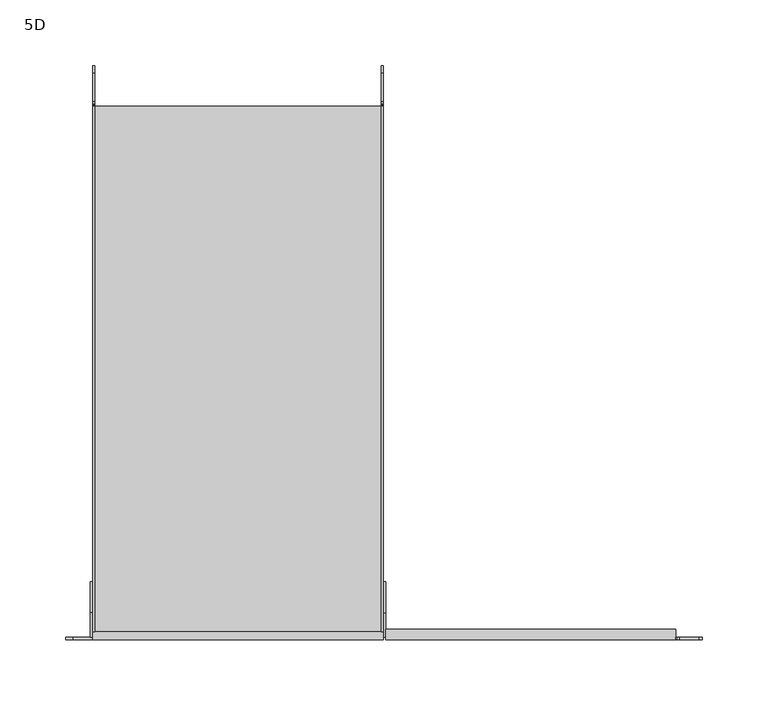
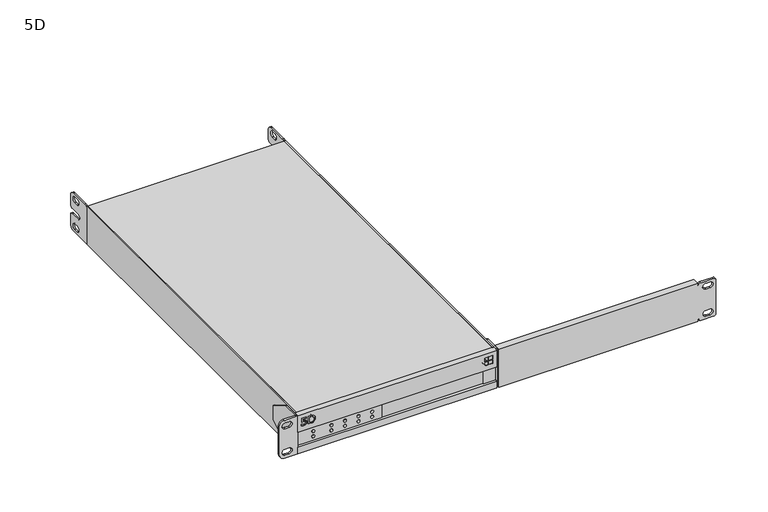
"""IFC4 building model written with IfcOpenShell, lengths in millimetres: proxy geometry, d&b 5D Amplifier : 5D."""

from ifc_helpers import new_model, si_unit, point, frame, frame_2d, origin, origin_with_axes, place, context, project, spatial, polyline, circle_curve, trimmed, segment, composite_curve, outline, extrude, source, transform, mapped, element, save
from ifc_brep_helpers import plane_surface, cylinder_surface, revolved_surface, advanced_brep


def proxy_5d_4609c75b(model_context):
    return source(origin(), model_context, "Body", "SolidModel", [
        extrude(outline(composite_curve([segment(polyline([(185.5829535, 43.9406488), (207.5499232, 43.9406488)]), True, "CONTINUOUS"), segment(trimmed(circle_curve(frame_2d((207.5499232, 38.9406488)), 5.0), [point((207.5499232, 43.9406488))], [point((212.5499232, 38.9406488))], False, "CARTESIAN"), True, "CONTINUOUS"), segment(polyline([(212.5499232, 38.9406488), (212.5499232, 28.0)]), True, "CONTINUOUS"), segment(trimmed(circle_curve(frame_2d((209.5499232, 28.0)), 3.0), [point((212.5499232, 28.0))], [point((209.5499232, 25.0))], False, "CARTESIAN"), True, "CONTINUOUS"), segment(polyline([(209.5499232, 25.0), (197.5499232, 25.0)]), True, "CONTINUOUS"), segment(trimmed(circle_curve(frame_2d((197.5499232, 22.0)), 3.0), [point((197.5499232, 25.0))], [point((197.5499232, 19.0))], True, "CARTESIAN"), True, "CONTINUOUS"), segment(polyline([(197.5499232, 19.0), (209.5499232, 19.0)]), True, "CONTINUOUS"), segment(trimmed(circle_curve(frame_2d((209.5499232, 16.0)), 3.0), [point((209.5499232, 19.0))], [point((212.5499232, 16.0))], False, "CARTESIAN"), True, "CONTINUOUS"), segment(polyline([(212.5499232, 16.0), (212.5499232, 5.0)]), True, "CONTINUOUS"), segment(trimmed(circle_curve(frame_2d((207.5499232, 5.0)), 5.0), [point((212.5499232, 5.0))], [point((207.5499232, 0.0))], False, "CARTESIAN"), True, "CONTINUOUS"), segment(polyline([(207.5499232, 0.0), (182.0499232, 0.0), (182.0499232, 42.7406488), (183.1829535, 42.7406488)]), True, "CONTINUOUS"), segment(trimmed(circle_curve(frame_2d((183.1829535, 43.7406488)), 1.0), [point((183.1829535, 42.7406488))], [point((183.9829535, 43.1406488))], True, "CARTESIAN"), True, "CONTINUOUS"), segment(trimmed(circle_curve(frame_2d((185.5829535, 41.9406488)), 2.0), [point((183.9829535, 43.1406488))], [point((185.5829535, 43.9406488))], False, "CARTESIAN"), True, "CONTINUOUS")], self_intersect=False), holes=[composite_curve([segment(trimmed(circle_curve(frame_2d((204.7999232, 6.25)), 3.25), [point((204.7999232, 3.0))], [point((204.7999232, 9.5))], True, "CARTESIAN"), True, "CONTINUOUS"), segment(polyline([(204.7999232, 9.5), (200.2999232, 9.5)]), True, "CONTINUOUS"), segment(trimmed(circle_curve(frame_2d((200.2999232, 6.25)), 3.25), [point((200.2999232, 9.5))], [point((200.2999232, 3.0))], True, "CARTESIAN"), True, "CONTINUOUS"), segment(polyline([(200.2999232, 3.0), (204.7999232, 3.0)]), True, "CONTINUOUS")], self_intersect=False), composite_curve([segment(trimmed(circle_curve(frame_2d((200.2999232, 37.75)), 3.25), [point((200.2999232, 41.0))], [point((200.2999232, 34.5))], True, "CARTESIAN"), True, "CONTINUOUS"), segment(polyline([(200.2999232, 34.5), (204.7999232, 34.5)]), True, "CONTINUOUS"), segment(trimmed(circle_curve(frame_2d((204.7999232, 37.75)), 3.25), [point((204.7999232, 34.5))], [point((204.7999232, 41.0))], True, "CARTESIAN"), True, "CONTINUOUS"), segment(polyline([(204.7999232, 41.0), (200.2999232, 41.0)]), True, "CONTINUOUS")], self_intersect=False)]), frame((-2.883647, 0.0, 0.0), z_axis=(1.0, 0.0, 0.0), x_axis=(0.0, 1.0, 0.0)), (0.0, 0.0, 1.0), 1.5),
        extrude(outline(composite_curve([segment(polyline([(185.5829535, 43.9406488), (207.5499232, 43.9406488)]), True, "CONTINUOUS"), segment(trimmed(circle_curve(frame_2d((207.5499232, 38.9406488)), 5.0), [point((207.5499232, 43.9406488))], [point((212.5499232, 38.9406488))], False, "CARTESIAN"), True, "CONTINUOUS"), segment(polyline([(212.5499232, 38.9406488), (212.5499232, 28.0)]), True, "CONTINUOUS"), segment(trimmed(circle_curve(frame_2d((209.5499232, 28.0)), 3.0), [point((212.5499232, 28.0))], [point((209.5499232, 25.0))], False, "CARTESIAN"), True, "CONTINUOUS"), segment(polyline([(209.5499232, 25.0), (197.5499232, 25.0)]), True, "CONTINUOUS"), segment(trimmed(circle_curve(frame_2d((197.5499232, 22.0)), 3.0), [point((197.5499232, 25.0))], [point((197.5499232, 19.0))], True, "CARTESIAN"), True, "CONTINUOUS"), segment(polyline([(197.5499232, 19.0), (209.5499232, 19.0)]), True, "CONTINUOUS"), segment(trimmed(circle_curve(frame_2d((209.5499232, 16.0)), 3.0), [point((209.5499232, 19.0))], [point((212.5499232, 16.0))], False, "CARTESIAN"), True, "CONTINUOUS"), segment(polyline([(212.5499232, 16.0), (212.5499232, 5.0)]), True, "CONTINUOUS"), segment(trimmed(circle_curve(frame_2d((207.5499232, 5.0)), 5.0), [point((212.5499232, 5.0))], [point((207.5499232, 0.0))], False, "CARTESIAN"), True, "CONTINUOUS"), segment(polyline([(207.5499232, 0.0), (182.0499232, 0.0), (182.0499232, 42.7406488), (183.1829535, 42.7406488)]), True, "CONTINUOUS"), segment(trimmed(circle_curve(frame_2d((183.1829535, 43.7406488)), 1.0), [point((183.1829535, 42.7406488))], [point((183.9829535, 43.1406488))], True, "CARTESIAN"), True, "CONTINUOUS"), segment(trimmed(circle_curve(frame_2d((185.5829535, 41.9406488)), 2.0), [point((183.9829535, 43.1406488))], [point((185.5829535, 43.9406488))], False, "CARTESIAN"), True, "CONTINUOUS")], self_intersect=False), holes=[composite_curve([segment(trimmed(circle_curve(frame_2d((204.7999232, 6.25)), 3.25), [point((204.7999232, 3.0))], [point((204.7999232, 9.5))], True, "CARTESIAN"), True, "CONTINUOUS"), segment(polyline([(204.7999232, 9.5), (200.2999232, 9.5)]), True, "CONTINUOUS"), segment(trimmed(circle_curve(frame_2d((200.2999232, 6.25)), 3.25), [point((200.2999232, 9.5))], [point((200.2999232, 3.0))], True, "CARTESIAN"), True, "CONTINUOUS"), segment(polyline([(200.2999232, 3.0), (204.7999232, 3.0)]), True, "CONTINUOUS")], self_intersect=False), composite_curve([segment(trimmed(circle_curve(frame_2d((200.2999232, 37.75)), 3.25), [point((200.2999232, 41.0))], [point((200.2999232, 34.5))], True, "CARTESIAN"), True, "CONTINUOUS"), segment(polyline([(200.2999232, 34.5), (204.7999232, 34.5)]), True, "CONTINUOUS"), segment(trimmed(circle_curve(frame_2d((204.7999232, 37.75)), 3.25), [point((204.7999232, 34.5))], [point((204.7999232, 41.0))], True, "CARTESIAN"), True, "CONTINUOUS"), segment(polyline([(204.7999232, 41.0), (200.2999232, 41.0)]), True, "CONTINUOUS")], self_intersect=False)]), frame((-221.330704, 0.0, 0.0), z_axis=(1.0, 0.0, 0.0), x_axis=(0.0, 1.0, 0.0)), (0.0, 0.0, 1.0), 1.5),
        extrude(outline(polyline([(-14.8641212, -216.4500768), (-14.8641212, -218.9005113), (-127.4848246, -218.9005113), (-127.4848246, -216.4500768), (-14.8641212, -216.4500768)])), frame((0.0, 0.0, 7.4401156), z_axis=(0.0, 0.0, 1.0), x_axis=(1.0, 0.0, 0.0)), (0.0, 0.0, 1.0), 17.1349724),
        extrude(outline(polyline([(-219.830704, 182.0499232), (-219.830704, -216.4500768), (-221.330704, -216.4500768), (-221.330704, 182.0499232), (-219.830704, 182.0499232)])), origin_with_axes(), (0.0, 0.0, 1.0), 43.9406488),
        extrude(outline(polyline([(-1.383647, 182.0499232), (-1.383647, -216.4500768), (-2.883647, -216.4500768), (-2.883647, 182.0499232), (-1.383647, 182.0499232)])), origin_with_axes(), (0.0, 0.0, 1.0), 43.9406488),
        advanced_brep(
        [(-1.383647, -222.4500768, 7.4401156), (-1.383647, -222.4500768, 0.0), (-1.383647, -216.4500768, 0.0), (-1.383647, -216.4500768, 43.9406488), (-1.383647, -222.4500768, 43.9406488), (-1.383647, -222.4500768, 24.5750881), (-1.383647, -219.9500768, 24.5750881), (-1.383647, -219.9500768, 7.4401156), (-221.330704, -222.4500768, 43.9406488), (-221.330704, -216.4500768, 43.9406488), (-221.330704, -216.4500768, 24.5750881), (-221.330704, -222.4500768, 24.5750881), (-221.330704, -222.4500768, 7.4401156), (-221.330704, -216.4500768, 7.4401156), (-221.330704, -216.4500768, 0.0), (-221.330704, -222.4500768, 0.0), (-14.8641212, -216.4500768, 7.4401156), (-14.8641212, -216.4500768, 24.5750881), (-209.7824127, -222.4500768, 39.5054393), (-206.5190145, -222.4500768, 39.5054393), (-206.5190145, -222.4500768, 30.5405362), (-209.7824127, -222.4500768, 30.5405362), (-217.0026684, -222.4500768, 39.5054393), (-212.1114808, -222.4500768, 39.5054393), (-212.1114808, -222.4500768, 38.0155348), (-215.6272884, -222.4500768, 38.0155348), (-215.7635554, -222.4500768, 36.4579961), (-214.2558866, -222.4500768, 36.4579961), (-213.19435, -222.4500768, 30.9129936), (-217.7386054, -222.4500768, 31.0936409), (-217.5942324, -222.4500768, 32.7438318), (-213.7483664, -222.4500768, 32.3069326), (-214.2558866, -222.4500768, 34.9579961), (-217.4005181, -222.4500768, 34.9579961), (-15.0897549, -222.4500768, 39.3082376), (-10.8402378, -222.4500768, 39.3082376), (-10.8402378, -222.4500768, 35.0587206), (-15.0897549, -222.4500768, 35.0587206), (-10.233164, -222.4500768, 39.3082376), (-5.983647, -222.4500768, 39.3082376), (-5.983647, -222.4500768, 35.0587206), (-10.233164, -222.4500768, 35.0587206), (-10.233164, -222.4500768, 34.4516467), (-5.983647, -222.4500768, 34.4516467), (-5.983647, -222.4500768, 30.2021297), (-10.233164, -222.4500768, 30.2021297), (-12.9649964, -222.4500768, 34.4516467), (-12.9649964, -222.4500768, 30.2021297), (-208.2824127, -222.4500768, 32.0405362), (-206.5190145, -222.4500768, 32.0405362), (-206.5190145, -222.4500768, 38.0054393), (-208.2824127, -222.4500768, 38.0054393), (-14.8641212, -219.9500768, 24.5750881), (-14.8641212, -219.9500768, 7.4401156), (-206.5190145, -217.4500768, 39.5054393), (-209.7824127, -217.4500768, 39.5054393), (-209.7824127, -217.4500768, 30.5405362), (-206.5190145, -217.4500768, 30.5405362), (-206.5190145, -217.4500768, 32.0405362), (-208.2824127, -217.4500768, 32.0405362), (-208.2824127, -217.4500768, 38.0054393), (-206.5190145, -217.4500768, 38.0054393), (-212.1114808, -217.4500768, 39.5054393), (-217.0026684, -217.4500768, 39.5054393), (-217.4005181, -217.4500768, 34.9579961), (-214.2558866, -217.4500768, 34.9579961), (-213.7483664, -217.4500768, 32.3069326), (-217.5942324, -217.4500768, 32.7438318), (-217.7386054, -217.4500768, 31.0936409), (-213.19435, -217.4500768, 30.9129936), (-214.2558866, -217.4500768, 36.4579961), (-215.7635554, -217.4500768, 36.4579961), (-215.6272884, -217.4500768, 38.0155348), (-212.1114808, -217.4500768, 38.0155348), (-10.8402378, -217.4500768, 39.3082376), (-15.0897549, -217.4500768, 39.3082376), (-15.0897549, -217.4500768, 35.0587206), (-10.8402378, -217.4500768, 35.0587206), (-5.983647, -217.4500768, 39.3082376), (-10.233164, -217.4500768, 39.3082376), (-10.233164, -217.4500768, 35.0587206), (-5.983647, -217.4500768, 35.0587206), (-5.983647, -217.4500768, 34.4516467), (-10.233164, -217.4500768, 34.4516467), (-10.233164, -217.4500768, 30.2021297), (-5.983647, -217.4500768, 30.2021297), (-12.9649964, -217.4500768, 30.2021297), (-12.9649964, -217.4500768, 34.4516467)],
        [
            (0, 1),
            (1, 2),
            (2, 3),
            (3, 4),
            (4, 5),
            (5, 6),
            (6, 7),
            (7, 0),
            (8, 9),
            (9, 10),
            (10, 11),
            (11, 8),
            (12, 13),
            (13, 14),
            (14, 15),
            (15, 12),
            (0, 12),
            (15, 1),
            (14, 2),
            (13, 16),
            (16, 17),
            (17, 10),
            (9, 3),
            (8, 4),
            (11, 5),
            (18, 19),
            (19, 20, circle_curve(frame((-206.5190145, -222.4500768, 35.0229877), z_axis=(0.0, 1.0, 0.0), x_axis=(1.0, 0.0, 0.0)), 4.4824516)),
            (20, 21),
            (21, 18),
            (22, 23),
            (23, 24),
            (24, 25),
            (25, 26),
            (26, 27),
            (27, 28, circle_curve(frame((-214.2558866, -222.4500768, 33.5838844), z_axis=(0.0, 1.0, 0.0), x_axis=(1.0, 0.0, 0.0)), 2.8741117)),
            (28, 29, circle_curve(frame((-215.2631459, -222.4500768, 36.11821), z_axis=(0.0, 1.0, 0.0), x_axis=(1.0, 0.0, 0.0)), 5.6012672)),
            (29, 30),
            (30, 31, circle_curve(frame((-215.2631459, -222.4500768, 36.11821), z_axis=(0.0, -1.0, 0.0), x_axis=(1.0, 0.0, 0.0)), 4.1012672)),
            (31, 32, circle_curve(frame((-214.2558866, -222.4500768, 33.5838844), z_axis=(0.0, -1.0, 0.0), x_axis=(1.0, 0.0, 0.0)), 1.3741117)),
            (32, 33),
            (33, 22),
            (34, 35),
            (35, 36),
            (36, 37),
            (37, 34),
            (38, 39),
            (39, 40),
            (40, 41),
            (41, 38),
            (42, 43),
            (43, 44),
            (44, 45),
            (45, 42),
            (46, 47, circle_curve(frame((-12.9649964, -222.4500768, 32.3268882), z_axis=(0.0, 1.0, 0.0), x_axis=(0.0, 0.0, 1.0)), 2.1247585)),
            (47, 46, circle_curve(frame((-12.9649964, -222.4500768, 32.3268882), z_axis=(0.0, 1.0, 0.0), x_axis=(0.0, 0.0, 1.0)), 2.1247585)),
            (48, 49),
            (49, 50, circle_curve(frame((-206.5190145, -222.4500768, 35.0229877), z_axis=(0.0, -1.0, 0.0), x_axis=(1.0, 0.0, 0.0)), 2.9824516)),
            (50, 51),
            (51, 48),
            (17, 52),
            (52, 6),
            (7, 53),
            (53, 16),
            (53, 52),
            (54, 55),
            (55, 56),
            (56, 57),
            (57, 54, circle_curve(frame((-206.5190145, -217.4500768, 35.0229877), z_axis=(0.0, -1.0, 0.0), x_axis=(1.0, 0.0, 0.0)), 4.4824516)),
            (58, 59),
            (59, 60),
            (60, 61),
            (61, 58, circle_curve(frame((-206.5190145, -217.4500768, 35.0229877), z_axis=(0.0, 1.0, 0.0), x_axis=(1.0, 0.0, 0.0)), 2.9824516)),
            (62, 63),
            (63, 64),
            (64, 65),
            (65, 66, circle_curve(frame((-214.2558866, -217.4500768, 33.5838844), z_axis=(0.0, 1.0, 0.0), x_axis=(1.0, 0.0, 0.0)), 1.3741117)),
            (66, 67, circle_curve(frame((-215.2631459, -217.4500768, 36.11821), z_axis=(0.0, 1.0, 0.0), x_axis=(1.0, 0.0, 0.0)), 4.1012672)),
            (67, 68),
            (68, 69, circle_curve(frame((-215.2631459, -217.4500768, 36.11821), z_axis=(0.0, -1.0, 0.0), x_axis=(1.0, 0.0, 0.0)), 5.6012672)),
            (69, 70, circle_curve(frame((-214.2558866, -217.4500768, 33.5838844), z_axis=(0.0, -1.0, 0.0), x_axis=(1.0, 0.0, 0.0)), 2.8741117)),
            (70, 71),
            (71, 72),
            (72, 73),
            (73, 62),
            (74, 75),
            (75, 76),
            (76, 77),
            (77, 74),
            (78, 79),
            (79, 80),
            (80, 81),
            (81, 78),
            (82, 83),
            (83, 84),
            (84, 85),
            (85, 82),
            (86, 87, circle_curve(frame((-12.9649964, -217.4500768, 32.3268882), z_axis=(0.0, -1.0, 0.0), x_axis=(0.0, 0.0, 1.0)), 2.1247585)),
            (87, 86, circle_curve(frame((-12.9649964, -217.4500768, 32.3268882), z_axis=(0.0, -1.0, 0.0), x_axis=(0.0, 0.0, 1.0)), 2.1247585)),
            (54, 19),
            (18, 55),
            (21, 56),
            (20, 57),
            (58, 49),
            (48, 59),
            (51, 60),
            (50, 61),
            (62, 23),
            (22, 63),
            (33, 64),
            (32, 65),
            (31, 66),
            (30, 67),
            (29, 68),
            (28, 69),
            (27, 70),
            (26, 71),
            (25, 72),
            (24, 73),
            (74, 35),
            (34, 75),
            (37, 76),
            (36, 77),
            (78, 39),
            (38, 79),
            (41, 80),
            (40, 81),
            (82, 43),
            (42, 83),
            (45, 84),
            (44, 85),
            (86, 47),
            (46, 87),
        ],
        [
            plane_surface(frame((-1.383647, -222.4500768, -304.8), z_axis=(1.0, 0.0, 0.0), x_axis=(0.0, 0.0, -1.0))),
            plane_surface(frame((-221.330704, -222.4500768, -304.8), z_axis=(-1.0, 0.0, 0.0), x_axis=(0.0, 0.0, 1.0))),
            plane_surface(frame((-1.383647, -222.4500768, 7.4401156), z_axis=(0.0, -1.0, 0.0), x_axis=(-1.0, 0.0, 0.0))),
            plane_surface(frame((-1.383647, -222.4500768, 0.0), z_axis=(0.0, 0.0, -1.0), x_axis=(-1.0, 0.0, 0.0))),
            plane_surface(frame((-1.383647, -216.4500768, 24.5750881), z_axis=(0.0, 1.0, 0.0), x_axis=(-1.0, 0.0, 0.0))),
            plane_surface(frame((-1.383647, -216.4500768, 43.9406488), z_axis=(0.0, 0.0, 1.0), x_axis=(-1.0, 0.0, 0.0))),
            plane_surface(frame((-1.383647, -222.4500768, 43.9406488), z_axis=(0.0, -1.0, 0.0), x_axis=(-1.0, 0.0, 0.0))),
            plane_surface(frame((-1.383647, -222.4500768, 24.5750881), z_axis=(0.0, 0.0, -1.0), x_axis=(-1.0, 0.0, 0.0))),
            plane_surface(frame((-1.383647, -216.4500768, 7.4401156), z_axis=(0.0, 0.0, 1.0), x_axis=(-1.0, 0.0, 0.0))),
            plane_surface(frame((-14.8641212, -216.4500768, 87.1230012), z_axis=(-1.0, 0.0, 0.0), x_axis=(0.0, 0.0, -1.0))),
            plane_surface(frame((-1.383647, -219.9500768, 24.5750881), z_axis=(0.0, -1.0, 0.0), x_axis=(-1.0, 0.0, 0.0))),
            plane_surface(frame((169.7687193, -217.4500768, 39.3082376), z_axis=(0.0, -1.0, 0.0), x_axis=(1.0, 0.0, 0.0))),
            plane_surface(frame((-206.5190145, -222.4500768, 39.5054393), z_axis=(0.0, 0.0, -1.0), x_axis=(0.0, 1.0, 0.0))),
            plane_surface(frame((-209.7824127, -222.4500768, 39.5054393), z_axis=(1.0, 0.0, 0.0), x_axis=(0.0, 1.0, 0.0))),
            plane_surface(frame((-209.7824127, -222.4500768, 30.5405362), z_axis=(0.0, 0.0, 1.0), x_axis=(0.0, 1.0, 0.0))),
            revolved_surface(polyline([(-202.0365629, -222.4500768, 35.0229877), (-202.0365629, -217.4500768, 35.0229877)]), (-206.5190145, -222.4500768, 35.0229877), (0.0, -1.0, 0.0)),
            plane_surface(frame((-206.5190145, -222.4500768, 32.0405362), z_axis=(0.0, 0.0, -1.0), x_axis=(0.0, 1.0, 0.0))),
            plane_surface(frame((-208.2824127, -222.4500768, 32.0405362), z_axis=(-1.0, 0.0, 0.0), x_axis=(0.0, 1.0, 0.0))),
            plane_surface(frame((-208.2824127, -222.4500768, 38.0054393), z_axis=(0.0, 0.0, 1.0), x_axis=(0.0, 1.0, 0.0))),
            cylinder_surface(frame((-206.5190145, -222.4500768, 35.0229877), z_axis=(0.0, 1.0, 0.0), x_axis=(1.0, 0.0, 0.0)), 2.9824516),
            plane_surface(frame((-212.1114808, -222.4500768, 39.5054393), z_axis=(0.0, 0.0, -1.0), x_axis=(0.0, 1.0, 0.0))),
            plane_surface(frame((-217.0026684, -222.4500768, 39.5054393), z_axis=(0.9961946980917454, 0.0, -0.08715574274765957), x_axis=(0.0, 1.0, 0.0))),
            plane_surface(frame((-217.4005181, -222.4500768, 34.9579961), z_axis=(0.0, 0.0, 1.0), x_axis=(0.0, 1.0, 0.0))),
            cylinder_surface(frame((-214.2558866, -222.4500768, 33.5838844), z_axis=(0.0, 1.0, 0.0), x_axis=(1.0, 0.0, 0.0)), 1.3741117),
            cylinder_surface(frame((-215.2631459, -222.4500768, 36.11821), z_axis=(0.0, 1.0, 0.0), x_axis=(1.0, 0.0, 0.0)), 4.1012672),
            plane_surface(frame((-217.5942324, -222.4500768, 32.7438318), z_axis=(0.996194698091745, 0.0, -0.08715574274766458), x_axis=(0.0, 1.0, 0.0))),
            revolved_surface(polyline([(-209.66187870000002, -222.4500768, 36.11821), (-209.66187870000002, -217.4500768, 36.11821)]), (-215.2631459, -222.4500768, 36.11821), (0.0, -1.0, 0.0)),
            revolved_surface(polyline([(-211.3817749, -222.4500768, 33.5838844), (-211.3817749, -217.4500768, 33.5838844)]), (-214.2558866, -222.4500768, 33.5838844), (0.0, -1.0, 0.0)),
            plane_surface(frame((-214.2558866, -222.4500768, 36.4579961), z_axis=(0.0, 0.0, -1.0), x_axis=(0.0, 1.0, 0.0))),
            plane_surface(frame((-215.7635554, -222.4500768, 36.4579961), z_axis=(-0.9961946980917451, 0.0, 0.08715574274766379), x_axis=(0.0, 1.0, 0.0))),
            plane_surface(frame((-215.6272884, -222.4500768, 38.0155348), z_axis=(0.0, 0.0, 1.0), x_axis=(0.0, 1.0, 0.0))),
            plane_surface(frame((-212.1114808, -222.4500768, 38.0155348), z_axis=(-1.0, 0.0, 0.0), x_axis=(0.0, 1.0, 0.0))),
            plane_surface(frame((-10.8402378, -222.4500768, 39.3082376), z_axis=(0.0, 0.0, -1.0), x_axis=(0.0, 1.0, 0.0))),
            plane_surface(frame((-15.0897549, -222.4500768, 39.3082376), z_axis=(1.0, 0.0, 0.0), x_axis=(0.0, 1.0, 0.0))),
            plane_surface(frame((-15.0897549, -222.4500768, 35.0587206), z_axis=(0.0, 0.0, 1.0), x_axis=(0.0, 1.0, 0.0))),
            plane_surface(frame((-10.8402378, -222.4500768, 35.0587206), z_axis=(-1.0, 0.0, 0.0), x_axis=(0.0, 1.0, 0.0))),
            plane_surface(frame((-5.983647, -222.4500768, 39.3082376), z_axis=(0.0, 0.0, -1.0), x_axis=(0.0, 1.0, 0.0))),
            plane_surface(frame((-10.233164, -222.4500768, 39.3082376), z_axis=(1.0, 0.0, 0.0), x_axis=(0.0, 1.0, 0.0))),
            plane_surface(frame((-10.233164, -222.4500768, 35.0587206), z_axis=(0.0, 0.0, 1.0), x_axis=(0.0, 1.0, 0.0))),
            plane_surface(frame((-5.983647, -222.4500768, 35.0587206), z_axis=(-1.0, 0.0, 0.0), x_axis=(0.0, 1.0, 0.0))),
            plane_surface(frame((-5.983647, -222.4500768, 34.4516467), z_axis=(0.0, 0.0, -1.0), x_axis=(0.0, 1.0, 0.0))),
            plane_surface(frame((-10.233164, -222.4500768, 34.4516467), z_axis=(1.0, 0.0, 0.0), x_axis=(0.0, 1.0, 0.0))),
            plane_surface(frame((-10.233164, -222.4500768, 30.2021297), z_axis=(0.0, 0.0, 1.0), x_axis=(0.0, 1.0, 0.0))),
            plane_surface(frame((-5.983647, -222.4500768, 30.2021297), z_axis=(-1.0, 0.0, 0.0), x_axis=(0.0, 1.0, 0.0))),
            revolved_surface(polyline([(-12.9649964, -222.4500768, 34.4516467), (-12.9649964, -217.4500768, 34.4516467)]), (-12.9649964, -222.4500768, 32.3268882), (0.0, -1.0, 0.0)),
        ],
        [
            (0, [[1, 2, 3, 4, 5, 6, 7, 8]]),
            (1, [[9, 10, 11, 12]]),
            (1, [[13, 14, 15, 16]]),
            (2, [[-1, 17, -16, 18]]),
            (3, [[-2, -18, -15, 19]]),
            (4, [[-3, -19, -14, 20, 21, 22, -10, 23]]),
            (5, [[-4, -23, -9, 24]]),
            (6, [[-5, -24, -12, 25], [26, 27, 28, 29], [30, 31, 32, 33, 34, 35, 36, 37, 38, 39, 40, 41], [42, 43, 44, 45], [46, 47, 48, 49], [50, 51, 52, 53], [54, 55]]),
            (6, [[56, 57, 58, 59]]),
            (7, [[-11, -22, 60, 61, -6, -25]]),
            (8, [[-13, -17, -8, 62, 63, -20]]),
            (9, [[64, -60, -21, -63]]),
            (10, [[-7, -61, -64, -62]]),
            (11, [[65, 66, 67, 68], [69, 70, 71, 72]]),
            (11, [[73, 74, 75, 76, 77, 78, 79, 80, 81, 82, 83, 84]]),
            (11, [[85, 86, 87, 88]]),
            (11, [[89, 90, 91, 92]]),
            (11, [[93, 94, 95, 96]]),
            (11, [[97, 98]]),
            (12, [[-65, 99, -26, 100]]),
            (13, [[-66, -100, -29, 101]]),
            (14, [[-67, -101, -28, 102]]),
            (15, [[-68, -102, -27, -99]]),
            (16, [[-69, 103, -56, 104]]),
            (17, [[-70, -104, -59, 105]]),
            (18, [[-71, -105, -58, 106]]),
            (19, [[-72, -106, -57, -103]]),
            (20, [[-73, 107, -30, 108]]),
            (21, [[-74, -108, -41, 109]]),
            (22, [[-75, -109, -40, 110]]),
            (23, [[-76, -110, -39, 111]]),
            (24, [[-77, -111, -38, 112]]),
            (25, [[-78, -112, -37, 113]]),
            (26, [[-79, -113, -36, 114]]),
            (27, [[-80, -114, -35, 115]]),
            (28, [[-81, -115, -34, 116]]),
            (29, [[-82, -116, -33, 117]]),
            (30, [[-83, -117, -32, 118]]),
            (31, [[-84, -118, -31, -107]]),
            (32, [[-85, 119, -42, 120]]),
            (33, [[-86, -120, -45, 121]]),
            (34, [[-87, -121, -44, 122]]),
            (35, [[-88, -122, -43, -119]]),
            (36, [[-89, 123, -46, 124]]),
            (37, [[-90, -124, -49, 125]]),
            (38, [[-91, -125, -48, 126]]),
            (39, [[-92, -126, -47, -123]]),
            (40, [[-93, 127, -50, 128]]),
            (41, [[-94, -128, -53, 129]]),
            (42, [[-95, -129, -52, 130]]),
            (43, [[-96, -130, -51, -127]]),
            (44, [[-97, 131, -54, 132]]),
            (44, [[-98, -132, -55, -131]]),
        ],
    ),
        extrude(outline(polyline([(-2.883647, 182.0499232), (-2.883647, -216.4500768), (-219.830704, -216.4500768), (-219.830704, 182.0499232), (-2.883647, 182.0499232)])), origin_with_axes(), (0.0, 0.0, 1.0), 43.9406488),
        advanced_brep(
        [(220.666353, -220.4500768, 42.0), (221.666353, -220.4500768, 42.0), (223.666353, -220.4500768, 44.0), (238.416353, -220.4500768, 44.0), (240.416353, -220.4500768, 42.0), (240.416353, -220.4500768, 2.0), (238.416353, -220.4500768, 0.0), (223.666353, -220.4500768, 0.0), (221.666353, -220.4500768, 2.0), (220.666353, -220.4500768, 2.0), (0.616353, -220.4500768, 2.0), (0.616353, -220.4500768, 41.9406488), (234.166353, -220.4500768, 41.1), (229.666353, -220.4500768, 41.1), (229.666353, -220.4500768, 34.6), (234.166353, -220.4500768, 34.6), (234.166353, -220.4500768, 9.4), (229.666353, -220.4500768, 9.4), (229.666353, -220.4500768, 2.9), (234.166353, -220.4500768, 2.9), (0.616353, -222.4500768, 43.9406488), (0.616353, -222.4500768, 0.0), (220.666353, -222.4500768, 0.0), (220.666353, -222.4500768, 2.0), (221.666353, -222.4500768, 2.0), (223.666353, -222.4500768, 0.0), (238.416353, -222.4500768, 0.0), (240.416353, -222.4500768, 2.0), (240.416353, -222.4500768, 42.0), (238.416353, -222.4500768, 44.0), (223.666353, -222.4500768, 44.0), (221.666353, -222.4500768, 42.0), (220.666353, -222.4500768, 42.0), (220.666353, -222.4500768, 43.9406488), (234.166353, -222.4500768, 41.1), (234.166353, -222.4500768, 34.6), (229.666353, -222.4500768, 34.6), (229.666353, -222.4500768, 41.1), (234.166353, -222.4500768, 9.4), (234.166353, -222.4500768, 2.9), (229.666353, -222.4500768, 2.9), (229.666353, -222.4500768, 9.4), (0.616353, -214.4500768, 43.9406488), (0.616353, -214.4500768, 41.9406488), (0.616353, -214.4500768, 2.0), (0.616353, -214.4500768, 0.0), (220.666353, -214.4500768, 0.0), (220.666353, -214.4500768, 2.0), (220.666353, -214.4500768, 41.9406488), (220.666353, -214.4500768, 43.9406488)],
        [
            (0, 1, circle_curve(frame((221.166353, -220.4500768, 42.0), z_axis=(0.0, -1.0, 0.0), x_axis=(-1.0, 0.0, 0.0)), 0.5)),
            (1, 2, circle_curve(frame((223.666353, -220.4500768, 42.0), z_axis=(0.0, 1.0, 0.0), x_axis=(1.0, 0.0, 0.0)), 2.0)),
            (2, 3),
            (3, 4, circle_curve(frame((238.416353, -220.4500768, 42.0), z_axis=(0.0, 1.0, 0.0), x_axis=(1.0, 0.0, 0.0)), 2.0)),
            (4, 5),
            (5, 6, circle_curve(frame((238.416353, -220.4500768, 2.0), z_axis=(0.0, 1.0, 0.0), x_axis=(1.0, 0.0, 0.0)), 2.0)),
            (6, 7),
            (7, 8, circle_curve(frame((223.666353, -220.4500768, 2.0), z_axis=(0.0, 1.0, 0.0), x_axis=(1.0, 0.0, 0.0)), 2.0)),
            (8, 9, circle_curve(frame((221.166353, -220.4500768, 2.0), z_axis=(0.0, -1.0, 0.0), x_axis=(-1.0, 0.0, 0.0)), 0.5)),
            (9, 10),
            (10, 11),
            (11, 0),
            (12, 13),
            (13, 14, circle_curve(frame((229.666353, -220.4500768, 37.85), z_axis=(0.0, -1.0, 0.0), x_axis=(-1.0, 0.0, 0.0)), 3.25)),
            (14, 15),
            (15, 12, circle_curve(frame((234.166353, -220.4500768, 37.85), z_axis=(0.0, -1.0, 0.0), x_axis=(-1.0, 0.0, 0.0)), 3.25)),
            (16, 17),
            (17, 18, circle_curve(frame((229.666353, -220.4500768, 6.15), z_axis=(0.0, -1.0, 0.0), x_axis=(-1.0, 0.0, 0.0)), 3.25)),
            (18, 19),
            (19, 16, circle_curve(frame((234.166353, -220.4500768, 6.15), z_axis=(0.0, -1.0, 0.0), x_axis=(-1.0, 0.0, 0.0)), 3.25)),
            (20, 21),
            (21, 22),
            (22, 23),
            (23, 24, circle_curve(frame((221.166353, -222.4500768, 2.0), z_axis=(0.0, 1.0, 0.0), x_axis=(-1.0, 0.0, 0.0)), 0.5)),
            (24, 25, circle_curve(frame((223.666353, -222.4500768, 2.0), z_axis=(0.0, -1.0, 0.0), x_axis=(1.0, 0.0, 0.0)), 2.0)),
            (25, 26),
            (26, 27, circle_curve(frame((238.416353, -222.4500768, 2.0), z_axis=(0.0, -1.0, 0.0), x_axis=(1.0, 0.0, 0.0)), 2.0)),
            (27, 28),
            (28, 29, circle_curve(frame((238.416353, -222.4500768, 42.0), z_axis=(0.0, -1.0, 0.0), x_axis=(1.0, 0.0, 0.0)), 2.0)),
            (29, 30),
            (30, 31, circle_curve(frame((223.666353, -222.4500768, 42.0), z_axis=(0.0, -1.0, 0.0), x_axis=(1.0, 0.0, 0.0)), 2.0)),
            (31, 32, circle_curve(frame((221.166353, -222.4500768, 42.0), z_axis=(0.0, 1.0, 0.0), x_axis=(-1.0, 0.0, 0.0)), 0.5)),
            (32, 33),
            (33, 20),
            (34, 35, circle_curve(frame((234.166353, -222.4500768, 37.85), z_axis=(0.0, 1.0, 0.0), x_axis=(-1.0, 0.0, 0.0)), 3.25)),
            (35, 36),
            (36, 37, circle_curve(frame((229.666353, -222.4500768, 37.85), z_axis=(0.0, 1.0, 0.0), x_axis=(-1.0, 0.0, 0.0)), 3.25)),
            (37, 34),
            (38, 39, circle_curve(frame((234.166353, -222.4500768, 6.15), z_axis=(0.0, 1.0, 0.0), x_axis=(-1.0, 0.0, 0.0)), 3.25)),
            (39, 40),
            (40, 41, circle_curve(frame((229.666353, -222.4500768, 6.15), z_axis=(0.0, 1.0, 0.0), x_axis=(-1.0, 0.0, 0.0)), 3.25)),
            (41, 38),
            (20, 42),
            (42, 43),
            (43, 11),
            (10, 44),
            (44, 45),
            (45, 21),
            (45, 46),
            (46, 22),
            (46, 47),
            (47, 9),
            (9, 23),
            (8, 24),
            (7, 25),
            (6, 26),
            (5, 27),
            (4, 28),
            (3, 29),
            (2, 30),
            (1, 31),
            (0, 32),
            (0, 48),
            (48, 49),
            (49, 33),
            (49, 42),
            (15, 35),
            (34, 12),
            (14, 36),
            (13, 37),
            (19, 39),
            (38, 16),
            (18, 40),
            (17, 41),
            (43, 48),
            (47, 44),
        ],
        [
            plane_surface(frame((0.616353, -220.4500768, 2520.924963), z_axis=(0.0, 1.0, 0.0), x_axis=(0.0, 0.0, 1.0))),
            plane_surface(frame((0.616353, -222.4500768, 2520.924963), z_axis=(0.0, -1.0, 0.0), x_axis=(0.0, 0.0, -1.0))),
            plane_surface(frame((0.616353, -222.4500768, 43.9406488), z_axis=(-1.0, 0.0, 0.0), x_axis=(0.0, 1.0, 0.0))),
            plane_surface(frame((0.616353, -222.4500768, 0.0), z_axis=(0.0, 0.0, -1.0), x_axis=(0.0, 1.0, 0.0))),
            plane_surface(frame((220.666353, -222.4500768, 0.0), z_axis=(1.0, 0.0, 0.0), x_axis=(0.0, 1.0, 0.0))),
            revolved_surface(polyline([(220.666353, -220.4500768, 2.0), (220.666353, -222.4500768, 2.0)]), (221.166353, -220.4500768, 2.0), (0.0, 1.0, 0.0)),
            cylinder_surface(frame((223.666353, -220.4500768, 2.0), z_axis=(0.0, -1.0, 0.0), x_axis=(1.0, 0.0, 0.0)), 2.0),
            plane_surface(frame((223.666353, -222.4500768, 0.0), z_axis=(0.0, 0.0, -1.0), x_axis=(0.0, 1.0, 0.0))),
            cylinder_surface(frame((238.416353, -220.4500768, 2.0), z_axis=(0.0, -1.0, 0.0), x_axis=(1.0, 0.0, 0.0)), 2.0),
            plane_surface(frame((240.416353, -222.4500768, 2.0), z_axis=(1.0, 0.0, 0.0), x_axis=(0.0, 1.0, 0.0))),
            cylinder_surface(frame((238.416353, -220.4500768, 42.0), z_axis=(0.0, -1.0, 0.0), x_axis=(1.0, 0.0, 0.0)), 2.0),
            plane_surface(frame((238.416353, -222.4500768, 44.0), z_axis=(0.0, 0.0, 1.0), x_axis=(0.0, 1.0, 0.0))),
            cylinder_surface(frame((223.666353, -220.4500768, 42.0), z_axis=(0.0, -1.0, 0.0), x_axis=(1.0, 0.0, 0.0)), 2.0),
            revolved_surface(polyline([(220.666353, -220.4500768, 42.0), (220.666353, -222.4500768, 42.0)]), (221.166353, -220.4500768, 42.0), (0.0, 1.0, 0.0)),
            plane_surface(frame((220.666353, -222.4500768, 42.0), z_axis=(1.0, 0.0, 0.0), x_axis=(0.0, 1.0, 0.0))),
            plane_surface(frame((220.666353, -222.4500768, 43.9406488), z_axis=(0.0, 0.0, 1.0), x_axis=(0.0, 1.0, 0.0))),
            revolved_surface(polyline([(230.916353, -220.4500768, 37.85), (230.916353, -222.4500768, 37.85)]), (234.166353, -222.4500768, 37.85), (0.0, 1.0, 0.0)),
            plane_surface(frame((234.166353, -222.4500768, 34.6), z_axis=(0.0, 0.0, 1.0), x_axis=(0.0, 1.0, 0.0))),
            revolved_surface(polyline([(226.416353, -220.4500768, 37.85), (226.416353, -222.4500768, 37.85)]), (229.666353, -222.4500768, 37.85), (0.0, 1.0, 0.0)),
            plane_surface(frame((229.666353, -222.4500768, 41.1), z_axis=(0.0, 0.0, -1.0), x_axis=(0.0, 1.0, 0.0))),
            revolved_surface(polyline([(230.916353, -220.4500768, 6.15), (230.916353, -222.4500768, 6.15)]), (234.166353, -222.4500768, 6.15), (0.0, 1.0, 0.0)),
            plane_surface(frame((234.166353, -222.4500768, 2.9), z_axis=(0.0, 0.0, 1.0), x_axis=(0.0, 1.0, 0.0))),
            revolved_surface(polyline([(226.416353, -220.4500768, 6.15), (226.416353, -222.4500768, 6.15)]), (229.666353, -222.4500768, 6.15), (0.0, 1.0, 0.0)),
            plane_surface(frame((229.666353, -222.4500768, 9.4), z_axis=(0.0, 0.0, -1.0), x_axis=(0.0, 1.0, 0.0))),
            plane_surface(frame((220.666353, -220.4500768, 41.9406488), z_axis=(0.0, 0.0, -1.0), x_axis=(-1.0, 0.0, 0.0))),
            plane_surface(frame((220.666353, -214.4500768, 43.9406488), z_axis=(0.0, 1.0, 0.0), x_axis=(0.0, 0.0, -1.0))),
            plane_surface(frame((220.666353, -220.4500768, 2.0), z_axis=(0.0, 0.0, 1.0), x_axis=(1.0, 0.0, 0.0))),
            plane_surface(frame((220.666353, -214.4500768, 2.0), z_axis=(0.0, 1.0, 0.0), x_axis=(0.0, 0.0, -1.0))),
        ],
        [
            (0, [[1, 2, 3, 4, 5, 6, 7, 8, 9, 10, 11, 12], [13, 14, 15, 16], [17, 18, 19, 20]]),
            (1, [[21, 22, 23, 24, 25, 26, 27, 28, 29, 30, 31, 32, 33, 34], [35, 36, 37, 38], [39, 40, 41, 42]]),
            (2, [[-21, 43, 44, 45, -11, 46, 47, 48]]),
            (3, [[-22, -48, 49, 50]]),
            (4, [[-23, -50, 51, 52, 53]]),
            (5, [[-9, 54, -24, -53]]),
            (6, [[-8, 55, -25, -54]]),
            (7, [[-7, 56, -26, -55]]),
            (8, [[-6, 57, -27, -56]]),
            (9, [[-5, 58, -28, -57]]),
            (10, [[-4, 59, -29, -58]]),
            (11, [[-3, 60, -30, -59]]),
            (12, [[-2, 61, -31, -60]]),
            (13, [[-1, 62, -32, -61]]),
            (14, [[-33, -62, 63, 64, 65]]),
            (15, [[-34, -65, 66, -43]]),
            (16, [[-16, 67, -35, 68]]),
            (17, [[-15, 69, -36, -67]]),
            (18, [[-14, 70, -37, -69]]),
            (19, [[-13, -68, -38, -70]]),
            (20, [[-20, 71, -39, 72]]),
            (21, [[-19, 73, -40, -71]]),
            (22, [[-18, 74, -41, -73]]),
            (23, [[-17, -72, -42, -74]]),
            (24, [[-45, 75, -63, -12]]),
            (25, [[-66, -64, -75, -44]]),
            (26, [[-52, 76, -46, -10]]),
            (27, [[-76, -51, -49, -47]]),
        ],
    ),
        extrude(outline(polyline([(-127.4848246, -219.9500768), (-221.330704, -219.9500768), (-221.330704, -216.4500768), (-127.4848246, -216.4500768), (-127.4848246, -219.9500768)])), frame((0.0, 0.0, 7.4401156), z_axis=(0.0, 0.0, 1.0), x_axis=(1.0, 0.0, 0.0)), (0.0, 0.0, 1.0), 17.1349724),
        extrude(outline(polyline([(-10.8402378, -222.4500768), (-15.0897549, -222.4500768), (-15.0897549, -217.4500768), (-10.8402378, -217.4500768), (-10.8402378, -222.4500768)])), frame((0.0, 0.0, 35.0587206), z_axis=(0.0, 0.0, 1.0), x_axis=(1.0, 0.0, 0.0)), (0.0, 0.0, 1.0), 4.249517),
        extrude(outline(polyline([(-5.983647, -222.4500768), (-10.233164, -222.4500768), (-10.233164, -217.4500768), (-5.983647, -217.4500768), (-5.983647, -222.4500768)])), frame((0.0, 0.0, 35.0587206), z_axis=(0.0, 0.0, 1.0), x_axis=(1.0, 0.0, 0.0)), (0.0, 0.0, 1.0), 4.249517),
        extrude(outline(polyline([(-5.983647, -222.4500768), (-10.233164, -222.4500768), (-10.233164, -217.4500768), (-5.983647, -217.4500768), (-5.983647, -222.4500768)])), frame((0.0, 0.0, 30.2021297), z_axis=(0.0, 0.0, 1.0), x_axis=(1.0, 0.0, 0.0)), (0.0, 0.0, 1.0), 4.249517),
        extrude(outline(composite_curve([segment(trimmed(circle_curve(frame_2d((32.3268882, -12.9649964)), 2.1247585), [point((30.2021297, -12.9649964))], [point((34.4516467, -12.9649964))], False, "CARTESIAN"), True, "CONTINUOUS"), segment(trimmed(circle_curve(frame_2d((32.3268882, -12.9649964)), 2.1247585), [point((34.4516467, -12.9649964))], [point((30.2021297, -12.9649964))], False, "CARTESIAN"), True, "CONTINUOUS")], self_intersect=False)), frame((0.0, -222.4500768, 0.0), z_axis=(0.0, 1.0, 0.0), x_axis=(0.0, 0.0, 1.0)), (0.0, 0.0, 1.0), 5.0),
        extrude(outline(composite_curve([segment(polyline([(39.5054393, -206.5190145), (39.5054393, -209.7824127), (30.5405362, -209.7824127), (30.5405362, -206.5190145)]), True, "CONTINUOUS"), segment(trimmed(circle_curve(frame_2d((35.0229877, -206.5190145)), 4.4824516), [point((30.5405362, -206.5190145))], [point((39.5054393, -206.5190145))], False, "CARTESIAN"), True, "CONTINUOUS")], self_intersect=False), holes=[composite_curve([segment(polyline([(32.0405362, -206.5190145), (32.0405362, -208.2824127), (38.0054393, -208.2824127), (38.0054393, -206.5190145)]), True, "CONTINUOUS"), segment(trimmed(circle_curve(frame_2d((35.0229877, -206.5190145)), 2.9824516), [point((38.0054393, -206.5190145))], [point((32.0405362, -206.5190145))], True, "CARTESIAN"), True, "CONTINUOUS")], self_intersect=False)]), frame((0.0, -222.4500768, 0.0), z_axis=(0.0, 1.0, 0.0), x_axis=(0.0, 0.0, 1.0)), (0.0, 0.0, 1.0), 5.0),
        extrude(outline(composite_curve([segment(polyline([(39.5054393, -212.1114808), (39.5054393, -217.0026684), (34.9579961, -217.4005181), (34.9579961, -214.2558866)]), True, "CONTINUOUS"), segment(trimmed(circle_curve(frame_2d((33.5838844, -214.2558866)), 1.3741117), [point((34.9579961, -214.2558866))], [point((32.3069326, -213.7483664))], True, "CARTESIAN"), True, "CONTINUOUS"), segment(trimmed(circle_curve(frame_2d((36.11821, -215.2631459)), 4.1012672), [point((32.3069326, -213.7483664))], [point((32.7438318, -217.5942324))], True, "CARTESIAN"), True, "CONTINUOUS"), segment(polyline([(32.7438318, -217.5942324), (31.0936409, -217.7386054)]), True, "CONTINUOUS"), segment(trimmed(circle_curve(frame_2d((36.11821, -215.2631459)), 5.6012672), [point((31.0936409, -217.7386054))], [point((30.9129936, -213.19435))], False, "CARTESIAN"), True, "CONTINUOUS"), segment(trimmed(circle_curve(frame_2d((33.5838844, -214.2558866)), 2.8741117), [point((30.9129936, -213.19435))], [point((36.4579961, -214.2558866))], False, "CARTESIAN"), True, "CONTINUOUS"), segment(polyline([(36.4579961, -214.2558866), (36.4579961, -215.7635554), (38.0155348, -215.6272884), (38.0155348, -212.1114808), (39.5054393, -212.1114808)]), True, "CONTINUOUS")], self_intersect=False)), frame((0.0, -222.4500768, 0.0), z_axis=(0.0, 1.0, 0.0), x_axis=(0.0, 0.0, 1.0)), (0.0, 0.0, 1.0), 5.0),
        extrude(outline(polyline([(-201.8467618, 43.9406488), (-178.4500768, 30.5), (-178.4500768, 13.5), (-201.9500768, 0.0), (-220.4500768, 0.0), (-220.4500768, 43.9406488), (-201.8467618, 43.9406488)])), frame((-1.383647, 0.0, 0.0), z_axis=(1.0, 0.0, 0.0), x_axis=(0.0, 1.0, 0.0)), (0.0, 0.0, 1.0), 2.0),
        extrude(outline(polyline([(-201.8467618, 43.9406488), (-178.4500768, 30.5), (-178.4500768, 13.5), (-201.9500768, 0.0), (-220.4500768, 0.0), (-220.4500768, 43.9406488), (-201.8467618, 43.9406488)])), frame((-223.330704, 0.0, 0.0), z_axis=(1.0, 0.0, 0.0), x_axis=(0.0, 1.0, 0.0)), (0.0, 0.0, 1.0), 2.0),
        extrude(outline(composite_curve([segment(trimmed(circle_curve(frame_2d((5.0, -236.7397245)), 5.0), [point((5.0, -241.7397245))], [point((0.0, -236.7397245))], False, "CARTESIAN"), True, "CONTINUOUS"), segment(polyline([(0.0, -236.7397245), (0.0, -221.330704), (43.9406488, -221.330704), (43.9406488, -236.7397245)]), True, "CONTINUOUS"), segment(trimmed(circle_curve(frame_2d((38.9406488, -236.7397245)), 5.0), [point((43.9406488, -236.7397245))], [point((38.9406488, -241.7397245))], False, "CARTESIAN"), True, "CONTINUOUS"), segment(polyline([(38.9406488, -241.7397245), (5.0, -241.7397245)]), True, "CONTINUOUS")], self_intersect=False), holes=[composite_curve([segment(trimmed(circle_curve(frame_2d((6.5771997, -230.9655576)), 3.2499525), [point((9.8271522, -230.9655576))], [point((3.3272472, -230.9655576))], True, "CARTESIAN"), True, "CONTINUOUS"), segment(polyline([(3.3272472, -230.9655576), (3.3272472, -235.4654919)]), True, "CONTINUOUS"), segment(trimmed(circle_curve(frame_2d((6.5771997, -235.4654919)), 3.2499525), [point((3.3272472, -235.4654919))], [point((9.8271522, -235.4654919))], True, "CARTESIAN"), True, "CONTINUOUS"), segment(polyline([(9.8271522, -235.4654919), (9.8271522, -230.9655576)]), True, "CONTINUOUS")], self_intersect=False), composite_curve([segment(polyline([(34.1480512, -230.9655576), (34.1480512, -235.4654919)]), True, "CONTINUOUS"), segment(trimmed(circle_curve(frame_2d((37.3980037, -235.4654919)), 3.2499525), [point((34.1480512, -235.4654919))], [point((40.6479563, -235.4654919))], True, "CARTESIAN"), True, "CONTINUOUS"), segment(polyline([(40.6479563, -235.4654919), (40.6479563, -230.9655576)]), True, "CONTINUOUS"), segment(trimmed(circle_curve(frame_2d((37.3980037, -230.9655576)), 3.2499525), [point((40.6479563, -230.9655576))], [point((34.1480512, -230.9655576))], True, "CARTESIAN"), True, "CONTINUOUS")], self_intersect=False)]), frame((0.0, -222.4500768, 0.0), z_axis=(0.0, 1.0, 0.0), x_axis=(0.0, 0.0, 1.0)), (0.0, 0.0, 1.0), 2.0),
        extrude(outline(composite_curve([segment(trimmed(circle_curve(frame_2d((12.9920152, -138.4616444)), 1.5529175), [point((12.9920152, -140.0145619))], [point((12.9920152, -136.9087269))], False, "CARTESIAN"), True, "CONTINUOUS"), segment(trimmed(circle_curve(frame_2d((12.9920152, -138.4616444)), 1.5529175), [point((12.9920152, -136.9087269))], [point((12.9920152, -140.0145619))], False, "CARTESIAN"), True, "CONTINUOUS")], self_intersect=False)), frame((0.0, -220.9500768, 0.0), z_axis=(0.0, 1.0, 0.0), x_axis=(0.0, 0.0, 1.0)), (0.0, 0.0, 1.0), 1.0),
        extrude(outline(composite_curve([segment(trimmed(circle_curve(frame_2d((19.0031846, -138.4616444)), 1.5529175), [point((19.0031846, -140.0145619))], [point((19.0031846, -136.9087269))], False, "CARTESIAN"), True, "CONTINUOUS"), segment(trimmed(circle_curve(frame_2d((19.0031846, -138.4616444)), 1.5529175), [point((19.0031846, -136.9087269))], [point((19.0031846, -140.0145619))], False, "CARTESIAN"), True, "CONTINUOUS")], self_intersect=False)), frame((0.0, -220.9500768, 0.0), z_axis=(0.0, 1.0, 0.0), x_axis=(0.0, 0.0, 1.0)), (0.0, 0.0, 1.0), 1.0),
        extrude(outline(composite_curve([segment(trimmed(circle_curve(frame_2d((12.9920152, -153.4525064)), 1.5529175), [point((12.9920152, -155.0054239))], [point((12.9920152, -151.899589))], False, "CARTESIAN"), True, "CONTINUOUS"), segment(trimmed(circle_curve(frame_2d((12.9920152, -153.4525064)), 1.5529175), [point((12.9920152, -151.899589))], [point((12.9920152, -155.0054239))], False, "CARTESIAN"), True, "CONTINUOUS")], self_intersect=False)), frame((0.0, -220.9500768, 0.0), z_axis=(0.0, 1.0, 0.0), x_axis=(0.0, 0.0, 1.0)), (0.0, 0.0, 1.0), 1.0),
        extrude(outline(composite_curve([segment(trimmed(circle_curve(frame_2d((19.0031846, -153.4525064)), 1.5529175), [point((19.0031846, -155.0054239))], [point((19.0031846, -151.899589))], False, "CARTESIAN"), True, "CONTINUOUS"), segment(trimmed(circle_curve(frame_2d((19.0031846, -153.4525064)), 1.5529175), [point((19.0031846, -151.899589))], [point((19.0031846, -155.0054239))], False, "CARTESIAN"), True, "CONTINUOUS")], self_intersect=False)), frame((0.0, -220.9500768, 0.0), z_axis=(0.0, 1.0, 0.0), x_axis=(0.0, 0.0, 1.0)), (0.0, 0.0, 1.0), 1.0),
        extrude(outline(composite_curve([segment(trimmed(circle_curve(frame_2d((12.9920152, -168.4612061)), 1.5529175), [point((12.9920152, -170.0141236))], [point((12.9920152, -166.9082886))], False, "CARTESIAN"), True, "CONTINUOUS"), segment(trimmed(circle_curve(frame_2d((12.9920152, -168.4612061)), 1.5529175), [point((12.9920152, -166.9082886))], [point((12.9920152, -170.0141236))], False, "CARTESIAN"), True, "CONTINUOUS")], self_intersect=False)), frame((0.0, -220.9500768, 0.0), z_axis=(0.0, 1.0, 0.0), x_axis=(0.0, 0.0, 1.0)), (0.0, 0.0, 1.0), 1.0),
        extrude(outline(composite_curve([segment(trimmed(circle_curve(frame_2d((19.0031846, -168.4612061)), 1.5529175), [point((19.0031846, -170.0141236))], [point((19.0031846, -166.9082886))], False, "CARTESIAN"), True, "CONTINUOUS"), segment(trimmed(circle_curve(frame_2d((19.0031846, -168.4612061)), 1.5529175), [point((19.0031846, -166.9082886))], [point((19.0031846, -170.0141236))], False, "CARTESIAN"), True, "CONTINUOUS")], self_intersect=False)), frame((0.0, -220.9500768, 0.0), z_axis=(0.0, 1.0, 0.0), x_axis=(0.0, 0.0, 1.0)), (0.0, 0.0, 1.0), 1.0),
        extrude(outline(composite_curve([segment(trimmed(circle_curve(frame_2d((12.9920152, -183.460987)), 1.5529175), [point((12.9920152, -185.0139045))], [point((12.9920152, -181.9080695))], False, "CARTESIAN"), True, "CONTINUOUS"), segment(trimmed(circle_curve(frame_2d((12.9920152, -183.460987)), 1.5529175), [point((12.9920152, -181.9080695))], [point((12.9920152, -185.0139045))], False, "CARTESIAN"), True, "CONTINUOUS")], self_intersect=False)), frame((0.0, -220.9500768, 0.0), z_axis=(0.0, 1.0, 0.0), x_axis=(0.0, 0.0, 1.0)), (0.0, 0.0, 1.0), 1.0),
        extrude(outline(composite_curve([segment(trimmed(circle_curve(frame_2d((19.0031846, -183.460987)), 1.5529175), [point((19.0031846, -185.0139045))], [point((19.0031846, -181.9080695))], False, "CARTESIAN"), True, "CONTINUOUS"), segment(trimmed(circle_curve(frame_2d((19.0031846, -183.460987)), 1.5529175), [point((19.0031846, -181.9080695))], [point((19.0031846, -185.0139045))], False, "CARTESIAN"), True, "CONTINUOUS")], self_intersect=False)), frame((0.0, -220.9500768, 0.0), z_axis=(0.0, 1.0, 0.0), x_axis=(0.0, 0.0, 1.0)), (0.0, 0.0, 1.0), 1.0),
        extrude(outline(composite_curve([segment(trimmed(circle_curve(frame_2d((19.0031846, -203.4606948)), 1.5529175), [point((19.0031846, -205.0136123))], [point((19.0031846, -201.9077773))], False, "CARTESIAN"), True, "CONTINUOUS"), segment(trimmed(circle_curve(frame_2d((19.0031846, -203.4606948)), 1.5529175), [point((19.0031846, -201.9077773))], [point((19.0031846, -205.0136123))], False, "CARTESIAN"), True, "CONTINUOUS")], self_intersect=False)), frame((0.0, -220.9500768, 0.0), z_axis=(0.0, 1.0, 0.0), x_axis=(0.0, 0.0, 1.0)), (0.0, 0.0, 1.0), 1.0),
        extrude(outline(composite_curve([segment(trimmed(circle_curve(frame_2d((12.9920152, -203.4606948)), 1.5529175), [point((12.9920152, -205.0136123))], [point((12.9920152, -201.9077773))], False, "CARTESIAN"), True, "CONTINUOUS"), segment(trimmed(circle_curve(frame_2d((12.9920152, -203.4606948)), 1.5529175), [point((12.9920152, -201.9077773))], [point((12.9920152, -205.0136123))], False, "CARTESIAN"), True, "CONTINUOUS")], self_intersect=False)), frame((0.0, -220.9500768, 0.0), z_axis=(0.0, 1.0, 0.0), x_axis=(0.0, 0.0, 1.0)), (0.0, 0.0, 1.0), 1.0),
    ])


if __name__ == "__main__":
    model = new_model("IFC4")
    model_context = context("Model", 3, world=origin())
    ifc_project = project(units=[si_unit("LENGTHUNIT", "METRE", prefix="MILLI")], contexts=[model_context])
    site = spatial("IfcSite", under=ifc_project)
    building = spatial("IfcBuilding", under=site)
    placement = place(None, origin())
    proxy_5d_shape = proxy_5d_4609c75b(model_context)
    element("IfcBuildingElementProxy", 1, Name="d&b 5D Amplifier : 5D", ObjectType="d&b 5D Amplifier : 5D", at=placement, inside=building, context=model_context, shape_type="MappedRepresentation", body=[
        mapped(proxy_5d_shape, transform((0.0, 0.0, 0.0), x_axis=(1.0, 0.0, 0.0), y_axis=(0.0, 1.0, 0.0), z_axis=(0.0, 0.0, 1.0))),
    ])
    save(model, "model.ifc")
